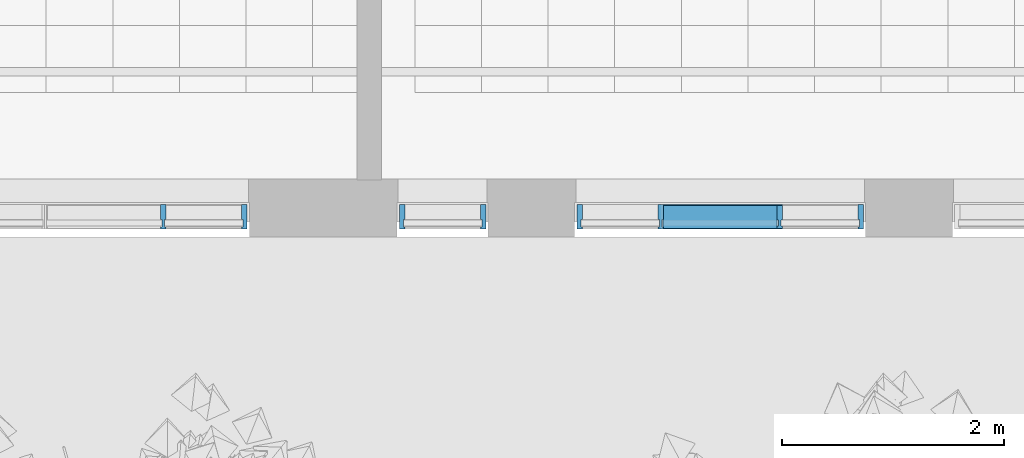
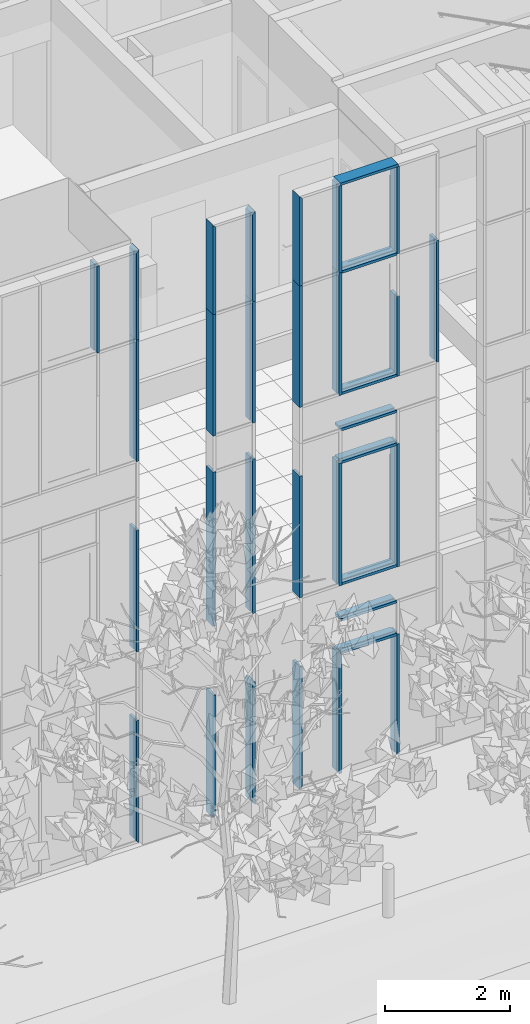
# One storey, part 23 of 246: 34 members, 3 elements without a shape of their own.
"""IFC2X3 building model written with IfcOpenShell, lengths in millimetres."""

from ifc_helpers import new_model, entity, si_unit, converted_unit, derived_unit, money_unit, direction, frame, origin_with_axes, place, context, subcontext, project, spatial, faceted_brep, source, transform, mapped, material, type_object, element, aggregate, save


model = new_model("IFC2X3")

# Units and contexts
model_context = context("Model", 3, precision=0.01, world=origin_with_axes(), true_north=direction((0.0, 1.0)))
body_context = subcontext(model_context, "Body", "Model", "MODEL_VIEW")
ifc_project = project(units=[si_unit("LENGTHUNIT", "METRE", prefix="MILLI"), si_unit("AREAUNIT", "SQUARE_METRE"), si_unit("VOLUMEUNIT", "CUBIC_METRE"), converted_unit("PLANEANGLEUNIT", "DEGREE", entity("IfcPlaneAngleMeasure", 0.0174532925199), si_unit("PLANEANGLEUNIT", "RADIAN"), dimensions=[0, 0, 0, 0, 0, 0, 0]), si_unit("SOLIDANGLEUNIT", "STERADIAN"), money_unit("EUR"), converted_unit("TIMEUNIT", "Year", entity("IfcTimeMeasure", 31556926.0), si_unit("TIMEUNIT", "SECOND"), dimensions=[0, 0, 1, 0, 0, 0, 0]), si_unit("MASSUNIT", "GRAM", prefix="KILO"), si_unit("THERMODYNAMICTEMPERATUREUNIT", "DEGREE_CELSIUS"), si_unit("LUMINOUSINTENSITYUNIT", "LUMEN"), si_unit("ENERGYUNIT", "JOULE", prefix="MEGA"), derived_unit("THERMALCONDUCTANCEUNIT", [(si_unit("POWERUNIT", "WATT"), 1), (si_unit("LENGTHUNIT", "METRE"), -1), (si_unit("THERMODYNAMICTEMPERATUREUNIT", "KELVIN"), -1)]), derived_unit("SPECIFICHEATCAPACITYUNIT", [(si_unit("ENERGYUNIT", "JOULE"), 1), (si_unit("MASSUNIT", "GRAM", prefix="KILO"), -1), (si_unit("THERMODYNAMICTEMPERATUREUNIT", "KELVIN"), -1)]), derived_unit("MASSDENSITYUNIT", [(si_unit("MASSUNIT", "GRAM", prefix="KILO"), 1), (si_unit("VOLUMEUNIT", "CUBIC_METRE"), -1)])], contexts=[model_context])

# Site, building, storey
site_placement = place(None, origin_with_axes())
site = spatial("IfcSite", under=ifc_project, at=site_placement, Name="L.Koidula tn 11b", CompositionType="ELEMENT")
building_placement = place(site_placement, origin_with_axes())
building = spatial("IfcBuilding", under=site, at=building_placement, Name="Rakvere Riigigümnaasium", CompositionType="ELEMENT")
storey_placement = place(building_placement, origin_with_axes())
storey = spatial("IfcBuildingStorey", under=building, at=storey_placement, Name="1.korrus 0,00", CompositionType="ELEMENT", Elevation=0.0)

# Curtain wall, member
curtain_wall_type = type_object("IfcCurtainWallType", Name="Curtain Wall Type", PredefinedType="NOTDEFINED")
curtain_wall_1_placement = place(storey_placement, frame((67100.0002798, 5111.45334637, -1.61944652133e-05), z_axis=(0.0, 0.0, 1.0), x_axis=(1.0, 0.0, 0.0)))
curtain_wall_1 = element("IfcCurtainWall", 1, at=curtain_wall_1_placement, inside=storey, type_object=curtain_wall_type, Name="KLF-05-4A")
ifc_material = material(Name="Alumiiniumprofiil (RAL 7021)")
member_type_1 = type_object("IfcMemberType", Name="Boundary Frame 50 x 222", PredefinedType="MULLION")
shared_shape_1 = source(origin_with_axes(), body_context, "Body", "Brep", [
    faceted_brep([(37.0, -32.5, 2375.00000025), (37.0, 32.5, 2375.00000025), (50.0, 32.5, 2375.00000025), (50.0, 53.0, 2375.00000025), (0.0, 53.0, 2375.00000025), (0.0, -169.0, 2375.00000025), (50.0, -169.0, 2375.00000025), (50.0, -32.5, 2375.00000025), (37.0, -32.5, -2.4712543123e-07), (37.0, 32.5, -2.4712543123e-07), (50.0, 32.5, -2.47125653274e-07), (50.0, 53.0, -2.47125653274e-07), (0.0, 53.0, -2.47125653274e-07), (0.0, -169.0, -2.47125653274e-07), (50.0, -169.0, -2.47125653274e-07), (50.0, -32.5, -2.47125653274e-07)], [[[0, 1, 2, 3, 4, 5, 6, 7]], [[1, 0, 8, 9]], [[10, 2, 1, 9]], [[2, 10, 11, 3]], [[12, 4, 3, 11]], [[13, 5, 4, 12]], [[14, 6, 5, 13]], [[15, 7, 6, 14]], [[0, 7, 15, 8]], [[8, 15, 14, 13, 12, 11, 10, 9]]]),
])
member_1_placement = place(curtain_wall_1_placement, frame((390.000208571, 0.0, 7465.0), z_axis=(-9.66679181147e-09, 0.0, 1.0), x_axis=(-1.0, 0.0, -9.66679181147e-09)))
member_1 = element("IfcMember", 2, at=member_1_placement, type_object=member_type_1, material=ifc_material, Name="KLF-05-3A-Profiilid", ObjectType="MULLION", context=body_context, shape_type="MappedRepresentation", body=[
    mapped(shared_shape_1, transform((0.0, 0.0, 0.0))),
])

# Curtain wall, members
curtain_wall_2_placement = place(storey_placement, frame((69496.9084811, 5111.45334637, -8.09717186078e-06), z_axis=(0.0, 0.0, 1.0), x_axis=(1.0, 0.0, 0.0)))
curtain_wall_2 = element("IfcCurtainWall", 3, at=curtain_wall_2_placement, inside=storey, type_object=curtain_wall_type, Name="KLF-05-3B")
member_2_placement = place(curtain_wall_2_placement, frame((-1186.90871197, 0.0, 6120.0), z_axis=(0.0, 0.0, -1.0), x_axis=(1.0, 0.0, 0.0)))
member_2 = element("IfcMember", 4, at=member_2_placement, type_object=member_type_1, material=ifc_material, Name="KLF-05-8A-Profiilid", ObjectType="MULLION", context=body_context, shape_type="MappedRepresentation", body=[
    mapped(shared_shape_1, transform((0.0, 0.0, 0.0))),
])
member_3_placement = place(curtain_wall_2_placement, frame((-1186.90888468, 0.0, 9840.0), z_axis=(0.0, 0.0, -1.0), x_axis=(1.0, 0.0, 0.0)))
member_3 = element("IfcMember", 5, at=member_3_placement, type_object=member_type_1, material=ifc_material, Name="KLF-05-5A-Profiilid", ObjectType="MULLION", context=body_context, shape_type="MappedRepresentation", body=[
    mapped(shared_shape_1, transform((0.0, 0.0, 0.0))),
])
member_4_placement = place(curtain_wall_2_placement, frame((1393.0913307, 0.0, 7465.0), z_axis=(-7.74479016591e-09, 0.0, 1.0), x_axis=(-1.0, 0.0, -7.74479016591e-09)))
member_4 = element("IfcMember", 6, at=member_4_placement, type_object=member_type_1, material=ifc_material, Name="KLF-05-9A-Profiilid", ObjectType="MULLION", context=body_context, shape_type="MappedRepresentation", body=[
    mapped(shared_shape_1, transform((0.0, 0.0, 0.0))),
])

curtain_wall_3_placement = place(storey_placement, frame((63946.9084811, 5111.45334637, -8.0971711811e-06), z_axis=(0.0, 0.0, 1.0), x_axis=(1.0, 0.0, 0.0)))
curtain_wall_3 = element("IfcCurtainWall", 7, at=curtain_wall_3_placement, inside=storey, type_object=curtain_wall_type, Name="KLF-05-3B")
member_5_placement = place(curtain_wall_3_placement, frame((1393.0913307, 0.0, 7465.0), z_axis=(-7.74479016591e-09, 0.0, 1.0), x_axis=(-1.0, 0.0, -7.74479016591e-09)))
member_5 = element("IfcMember", 8, at=member_5_placement, type_object=member_type_1, material=ifc_material, Name="KLF-05-9A-Profiilid", ObjectType="MULLION", context=body_context, shape_type="MappedRepresentation", body=[
    mapped(shared_shape_1, transform((0.0, 0.0, 0.0))),
])
member_6_placement = place(curtain_wall_3_placement, frame((1393.0913307, 0.0, 3745.0), z_axis=(-2.40928437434e-08, 0.0, 1.0), x_axis=(-1.0, 0.0, -2.40928437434e-08)))
member_6 = element("IfcMember", 9, at=member_6_placement, type_object=member_type_1, material=ifc_material, Name="KLF-05-6A-Profiilid", ObjectType="MULLION", context=body_context, shape_type="MappedRepresentation", body=[
    mapped(shared_shape_1, transform((0.0, 0.0, 0.0))),
])

# Member
shared_shape_2 = source(origin_with_axes(), body_context, "Body", "Brep", [
    faceted_brep([(-37.0, -32.5, 2375.0), (-50.0, -32.5, 2375.0), (-50.0, -169.0, 2375.0), (0.0, -169.0, 2375.0), (0.0, 53.0, 2375.0), (-50.0, 53.0, 2375.0), (-50.0, 32.5, 2375.0), (-37.0, 32.5, 2375.0), (-37.0, -32.5, 0.0), (-50.0, -32.5, 0.0), (-50.0, -169.0, 0.0), (0.0, -169.0, 0.0), (0.0, 53.0, 0.0), (-50.0, 53.0, 0.0), (-50.0, 32.5, 0.0), (-37.0, 32.5, 0.0)], [[[0, 1, 2, 3, 4, 5, 6, 7]], [[0, 8, 9, 1]], [[9, 10, 2, 1]], [[10, 11, 3, 2]], [[11, 12, 4, 3]], [[12, 13, 5, 4]], [[6, 5, 13, 14]], [[14, 15, 7, 6]], [[7, 15, 8, 0]], [[8, 15, 14, 13, 12, 11, 10, 9]]]),
])
member_7_placement = place(curtain_wall_1_placement, frame((-390.000197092, 0.0, 7465.0), z_axis=(0.0, 0.0, 1.0), x_axis=(-1.0, 0.0, 0.0)))
member_7 = element("IfcMember", 10, at=member_7_placement, type_object=member_type_1, material=ifc_material, Name="KLF-05-7A-Profiilid", ObjectType="MULLION", context=body_context, shape_type="MappedRepresentation", body=[
    mapped(shared_shape_2, transform((0.0, 0.0, 0.0))),
])

shared_shape_3 = source(origin_with_axes(), body_context, "Body", "Brep", [
    faceted_brep([(37.0, -32.5, 1712.99983191), (37.0, 32.5, 1712.99983191), (50.0, 32.5, 1699.99983191), (50.0, 53.0, 1699.99983191), (0.0, 53.0, 1749.99983191), (0.0, -169.0, 1749.99983191), (50.0, -169.0, 1699.99983191), (50.0, -32.5, 1699.99983191), (37.0, -32.5, -2.47125875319e-07), (37.0, 32.5, -2.47125875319e-07), (50.0, 32.5, -2.47125764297e-07), (50.0, 53.0, -2.47125764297e-07), (0.0, 53.0, -2.47125764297e-07), (0.0, -169.0, -2.47125764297e-07), (50.0, -169.0, -2.47125764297e-07), (50.0, -32.5, -2.47125764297e-07)], [[[0, 1, 2, 3, 4, 5, 6, 7]], [[1, 0, 8, 9]], [[10, 2, 1, 9]], [[2, 10, 11, 3]], [[12, 4, 3, 11]], [[13, 5, 4, 12]], [[14, 6, 5, 13]], [[15, 7, 6, 14]], [[0, 7, 15, 8]], [[8, 15, 14, 13, 12, 11, 10, 9]]]),
])
member_8_placement = place(curtain_wall_1_placement, frame((390.000185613, 0.0, 9840.0), z_axis=(-3.8268921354e-08, 0.0, 1.0), x_axis=(-1.0, 0.0, -3.8268921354e-08)))
member_8 = element("IfcMember", 11, at=member_8_placement, type_object=member_type_1, material=ifc_material, Name="KLF-05-4A-Profiilid", ObjectType="MULLION", context=body_context, shape_type="MappedRepresentation", body=[
    mapped(shared_shape_3, transform((0.0, 0.0, 0.0))),
])

member_9_placement = place(curtain_wall_3_placement, frame((1393.0913123, 0.0, 9840.0), z_axis=(-1.86264510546e-09, 0.0, 1.0), x_axis=(-1.0, 0.0, -1.86264510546e-09)))
member_9 = element("IfcMember", 12, at=member_9_placement, type_object=member_type_1, material=ifc_material, Name="KLF-05-0A-Profiilid", ObjectType="MULLION", context=body_context, shape_type="MappedRepresentation", body=[
    mapped(shared_shape_3, transform((0.0, 0.0, 0.0))),
])

member_type_2 = type_object("IfcMemberType", Name="Mullion Frame 50 x 222", PredefinedType="MULLION")
shared_shape_4 = source(origin_with_axes(), body_context, "Body", "Brep", [
    faceted_brep([(-12.0, -32.5, 2375.0), (-25.0, -32.5, 2375.0), (-25.0, -169.0, 2375.0), (25.0, -169.0, 2375.0), (25.0, -32.5, 2375.0), (12.0, -32.5, 2375.0), (12.0, 32.5, 2375.0), (25.0, 32.5, 2375.0), (25.0, 53.0, 2375.0), (-25.0, 53.0, 2375.0), (-25.0, 32.5, 2375.0), (-12.0, 32.5, 2375.0), (-12.0, -32.5, -25.0), (-25.0, -32.5, -25.0), (-25.0, -169.0, -25.0), (25.0, -169.0, -25.0), (25.0, -32.5, -25.0), (12.0, -32.5, -25.0), (12.0, 32.5, -25.0), (25.0, 32.5, -25.0), (25.0, 53.0, -25.0), (-25.0, 53.0, -25.0), (-25.0, 32.5, -25.0), (-12.0, 32.5, -25.0)], [[[0, 1, 2, 3, 4, 5, 6, 7, 8, 9, 10, 11]], [[1, 0, 12, 13]], [[1, 13, 14, 2]], [[3, 2, 14, 15]], [[4, 3, 15, 16]], [[4, 16, 17, 5]], [[5, 17, 18, 6]], [[7, 6, 18, 19]], [[19, 20, 8, 7]], [[9, 8, 20, 21]], [[22, 10, 9, 21]], [[11, 10, 22, 23]], [[0, 11, 23, 12]], [[23, 22, 21, 20, 19, 18, 17, 16, 15, 14, 13, 12]]]),
])
member_10_placement = place(curtain_wall_2_placement, frame((-431.908628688, 0.0, 3745.0), z_axis=(0.0, 0.0, 1.0), x_axis=(-1.0, 0.0, 0.0)))
member_10 = element("IfcMember", 13, at=member_10_placement, type_object=member_type_2, material=ifc_material, Name="KLF-05-9A-Profiilid", ObjectType="MULLION", context=body_context, shape_type="MappedRepresentation", body=[
    mapped(shared_shape_4, transform((0.0, 0.0, 0.0))),
])

member_11_placement = place(curtain_wall_2_placement, frame((-431.908628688, 0.0, 7465.0), z_axis=(0.0, 0.0, 1.0), x_axis=(-1.0, 0.0, 0.0)))
member_11 = element("IfcMember", 14, at=member_11_placement, type_object=member_type_2, material=ifc_material, Name="KLF-05-6A-Profiilid", ObjectType="MULLION", context=body_context, shape_type="MappedRepresentation", body=[
    mapped(shared_shape_4, transform((0.0, 0.0, 0.0))),
])

shared_shape_5 = source(origin_with_axes(), body_context, "Body", "Brep", [
    faceted_brep([(37.0, -32.5, 2400.0), (37.0, 32.5, 2400.0), (50.0, 32.5, 2400.0), (50.0, 53.0, 2400.0), (0.0, 53.0, 2400.0), (0.0, -169.0, 2400.0), (50.0, -169.0, 2400.0), (50.0, -32.5, 2400.0), (37.0, -32.5, 37.0), (37.0, 32.5, 37.0), (50.0, 32.5, 50.0), (50.0, 53.0, 50.0), (0.0, 53.0, 0.0), (0.0, -169.0, 0.0), (50.0, -169.0, 50.0), (50.0, -32.5, 50.0)], [[[0, 1, 2, 3, 4, 5, 6, 7]], [[1, 0, 8, 9]], [[10, 2, 1, 9]], [[2, 10, 11, 3]], [[4, 3, 11, 12]], [[5, 4, 12, 13]], [[6, 5, 13, 14]], [[15, 7, 6, 14]], [[0, 7, 15, 8]], [[8, 15, 14, 13, 12, 11, 10, 9]]]),
])
member_12_placement = place(curtain_wall_1_placement, frame((390.000208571, 0.0, 0.0), z_axis=(0.0, 0.0, 1.0), x_axis=(-1.0, 0.0, 0.0)))
member_12 = element("IfcMember", 15, at=member_12_placement, type_object=member_type_1, material=ifc_material, Name="KLF-05-8A-Profiilid", ObjectType="MULLION", context=body_context, shape_type="MappedRepresentation", body=[
    mapped(shared_shape_5, transform((0.0, 0.0, 0.0))),
])

member_13_placement = place(curtain_wall_3_placement, frame((1393.0913307, 0.0, 0.0), z_axis=(-2.38418766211e-08, 0.0, 1.0), x_axis=(-1.0, 0.0, -2.38418766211e-08)))
member_13 = element("IfcMember", 16, at=member_13_placement, type_object=member_type_1, material=ifc_material, Name="KLF-05-3A-Profiilid", ObjectType="MULLION", context=body_context, shape_type="MappedRepresentation", body=[
    mapped(shared_shape_5, transform((0.0, 0.0, 0.0))),
])

member_type_3 = type_object("IfcMemberType", Name="50 x 208", PredefinedType="MULLION")
shared_shape_6 = source(origin_with_axes(), body_context, "Body", "Brep", [
    faceted_brep([(-12.0, -27.0, 1025.45673266), (-25.0, -27.0, 1025.45673266), (-25.0, -160.0, 1025.45673266), (25.0, -160.0, 1025.45673266), (25.0, -27.0, 1025.45673266), (12.0, -27.0, 1025.45673266), (12.0, 27.0, 1025.45673266), (25.0, 27.0, 1025.45673266), (25.0, 48.0, 1025.45673266), (-25.0, 48.0, 1025.45673266), (-25.0, 27.0, 1025.45673266), (-12.0, 27.0, 1025.45673266), (-12.0, -27.0, 0.0), (-25.0, -27.0, 0.0), (-25.0, -160.0, 0.0), (25.0, -160.0, 0.0), (25.0, -27.0, 0.0), (12.0, -27.0, 0.0), (12.0, 27.0, 0.0), (25.0, 27.0, 0.0), (25.0, 48.0, 0.0), (-25.0, 48.0, 0.0), (-25.0, 27.0, 0.0), (-12.0, 27.0, 0.0)], [[[0, 1, 2, 3, 4, 5, 6, 7, 8, 9, 10, 11]], [[1, 0, 12, 13]], [[1, 13, 14, 2]], [[3, 2, 14, 15]], [[4, 3, 15, 16]], [[4, 16, 17, 5]], [[5, 17, 18, 6]], [[7, 6, 18, 19]], [[19, 20, 8, 7]], [[9, 8, 20, 21]], [[22, 10, 9, 21]], [[11, 10, 22, 23]], [[0, 11, 23, 12]], [[23, 22, 21, 20, 19, 18, 17, 16, 15, 14, 13, 12]]]),
])
member_14_placement = place(curtain_wall_2_placement, frame((-412.365361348, 0.0, 2400.0), z_axis=(1.0, 0.0, 0.0), x_axis=(0.0, 0.0, 1.0)))
member_14 = element("IfcMember", 17, at=member_14_placement, type_object=member_type_3, material=ifc_material, Name="KLF-40", ObjectType="MULLION", context=body_context, shape_type="MappedRepresentation", body=[
    mapped(shared_shape_6, transform((0.0, 0.0, 0.0))),
])

member_15_placement = place(curtain_wall_2_placement, frame((-412.365361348, 0.0, 3040.0), z_axis=(1.0, 0.0, 0.0), x_axis=(0.0, 0.0, 1.0)))
member_15 = element("IfcMember", 18, at=member_15_placement, type_object=member_type_3, material=ifc_material, Name="KLF-82", ObjectType="MULLION", context=body_context, shape_type="MappedRepresentation", body=[
    mapped(shared_shape_6, transform((0.0, 0.0, 0.0))),
])

member_16_placement = place(curtain_wall_2_placement, frame((-412.365361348, 0.0, 3745.0), z_axis=(1.0, 0.0, 0.0), x_axis=(0.0, 0.0, 1.0)))
member_16 = element("IfcMember", 19, at=member_16_placement, type_object=member_type_3, material=ifc_material, Name="KLF-84", ObjectType="MULLION", context=body_context, shape_type="MappedRepresentation", body=[
    mapped(shared_shape_6, transform((0.0, 0.0, 0.0))),
])

member_17_placement = place(curtain_wall_2_placement, frame((-412.365361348, 0.0, 6120.0), z_axis=(1.0, 0.0, 0.0), x_axis=(0.0, 0.0, 1.0)))
member_17 = element("IfcMember", 20, at=member_17_placement, type_object=member_type_3, material=ifc_material, Name="KLF-15", ObjectType="MULLION", context=body_context, shape_type="MappedRepresentation", body=[
    mapped(shared_shape_6, transform((0.0, 0.0, 0.0))),
])

member_18_placement = place(curtain_wall_2_placement, frame((-412.365361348, 0.0, 6760.0), z_axis=(1.0, 0.0, 0.0), x_axis=(0.0, 0.0, 1.0)))
member_18 = element("IfcMember", 21, at=member_18_placement, type_object=member_type_3, material=ifc_material, Name="KLF-17", ObjectType="MULLION", context=body_context, shape_type="MappedRepresentation", body=[
    mapped(shared_shape_6, transform((0.0, 0.0, 0.0))),
])

member_19_placement = place(curtain_wall_2_placement, frame((-412.365361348, 0.0, 7465.0), z_axis=(1.0, 0.0, 0.0), x_axis=(0.0, 0.0, 1.0)))
member_19 = element("IfcMember", 22, at=member_19_placement, type_object=member_type_3, material=ifc_material, Name="KLF-50", ObjectType="MULLION", context=body_context, shape_type="MappedRepresentation", body=[
    mapped(shared_shape_6, transform((0.0, 0.0, 0.0))),
])

shared_shape_7 = source(origin_with_axes(), body_context, "Body", "Brep", [
    faceted_brep([(-12.0, -32.5, 1699.99983191), (-25.0, -32.5, 1699.99983191), (-25.0, -169.0, 1699.99983191), (25.0, -169.0, 1699.99983191), (25.0, -32.5, 1699.99983191), (12.0, -32.5, 1699.99983191), (12.0, 32.5, 1699.99983191), (25.0, 32.5, 1699.99983191), (25.0, 53.0, 1699.99983191), (-25.0, 53.0, 1699.99983191), (-25.0, 32.5, 1699.99983191), (-12.0, 32.5, 1699.99983191), (-12.0, -32.5, 0.0), (-25.0, -32.5, 0.0), (-25.0, -169.0, 0.0), (25.0, -169.0, 0.0), (25.0, -32.5, 0.0), (12.0, -32.5, 0.0), (12.0, 32.5, 0.0), (25.0, 32.5, 0.0), (25.0, 53.0, 0.0), (-25.0, 53.0, 0.0), (-25.0, 32.5, 0.0), (-12.0, 32.5, 0.0)], [[[0, 1, 2, 3, 4, 5, 6, 7, 8, 9, 10, 11]], [[1, 0, 12, 13]], [[1, 13, 14, 2]], [[3, 2, 14, 15]], [[4, 3, 15, 16]], [[4, 16, 17, 5]], [[5, 17, 18, 6]], [[7, 6, 18, 19]], [[19, 20, 8, 7]], [[9, 8, 20, 21]], [[22, 10, 9, 21]], [[11, 10, 22, 23]], [[0, 11, 23, 12]], [[23, 22, 21, 20, 19, 18, 17, 16, 15, 14, 13, 12]]]),
])
member_20_placement = place(curtain_wall_2_placement, frame((-431.908628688, 0.0, 9840.0), z_axis=(0.0, 0.0, 1.0), x_axis=(-1.0, 0.0, 0.0)))
member_20 = element("IfcMember", 23, at=member_20_placement, type_object=member_type_2, material=ifc_material, Name="KLF-05-5A-Profiilid", ObjectType="MULLION", context=body_context, shape_type="MappedRepresentation", body=[
    mapped(shared_shape_7, transform((0.0, 0.0, 0.0))),
])

member_21_placement = place(curtain_wall_2_placement, frame((638.091371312, 0.0, 9840.0), z_axis=(0.0, 0.0, 1.0), x_axis=(-1.0, 0.0, 0.0)))
member_21 = element("IfcMember", 24, at=member_21_placement, type_object=member_type_2, material=ifc_material, Name="KLF-05-6A-Profiilid", ObjectType="MULLION", context=body_context, shape_type="MappedRepresentation", body=[
    mapped(shared_shape_7, transform((0.0, 0.0, 0.0))),
])

member_22_placement = place(curtain_wall_3_placement, frame((638.091371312, 0.0, 9840.0), z_axis=(0.0, 0.0, 1.0), x_axis=(-1.0, 0.0, 0.0)))
member_22 = element("IfcMember", 25, at=member_22_placement, type_object=member_type_2, material=ifc_material, Name="KLF-05-6A-Profiilid", ObjectType="MULLION", context=body_context, shape_type="MappedRepresentation", body=[
    mapped(shared_shape_7, transform((0.0, 0.0, 0.0))),
])

aggregate(curtain_wall_3, [member_5, member_6, member_13, member_22, member_9])

shared_shape_8 = source(origin_with_axes(), body_context, "Body", "Brep", [
    faceted_brep([(-37.0, -32.5, 2400.0), (-50.0, -32.5, 2400.0), (-50.0, -169.0, 2400.0), (0.0, -169.0, 2400.0), (0.0, 53.0, 2400.0), (-50.0, 53.0, 2400.0), (-50.0, 32.5, 2400.0), (-37.0, 32.5, 2400.0), (-37.0, -32.5, 37.0), (-50.0, -32.5, 50.0), (-50.0, -169.0, 50.0), (0.0, -169.0, 0.0), (0.0, 53.0, 0.0), (-50.0, 53.0, 50.0), (-50.0, 32.5, 50.0), (-37.0, 32.5, 37.0)], [[[0, 1, 2, 3, 4, 5, 6, 7]], [[0, 8, 9, 1]], [[9, 10, 2, 1]], [[2, 10, 11, 3]], [[3, 11, 12, 4]], [[4, 12, 13, 5]], [[6, 5, 13, 14]], [[14, 15, 7, 6]], [[7, 15, 8, 0]], [[8, 15, 14, 13, 12, 11, 10, 9]]]),
])
member_23_placement = place(curtain_wall_1_placement, frame((-390.000197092, 0.0, 0.0), z_axis=(0.0, 0.0, 1.0), x_axis=(-1.0, 0.0, 0.0)))
member_23 = element("IfcMember", 26, at=member_23_placement, type_object=member_type_1, material=ifc_material, Name="KLF-05-2A-Profiilid", ObjectType="MULLION", context=body_context, shape_type="MappedRepresentation", body=[
    mapped(shared_shape_8, transform((0.0, 0.0, 0.0))),
])

shared_shape_9 = source(origin_with_axes(), body_context, "Body", "Brep", [
    faceted_brep([(-37.0, -32.5, 1712.99983191), (-50.0, -32.5, 1699.99983191), (-50.0, -169.0, 1699.99983191), (0.0, -169.0, 1749.99983191), (0.0, 53.0, 1749.99983191), (-50.0, 53.0, 1699.99983191), (-50.0, 32.5, 1699.99983191), (-37.0, 32.5, 1712.99983191), (-37.0, -32.5, 0.0), (-50.0, -32.5, 0.0), (-50.0, -169.0, 0.0), (0.0, -169.0, 0.0), (0.0, 53.0, 0.0), (-50.0, 53.0, 0.0), (-50.0, 32.5, 0.0), (-37.0, 32.5, 0.0)], [[[0, 1, 2, 3, 4, 5, 6, 7]], [[0, 8, 9, 1]], [[9, 10, 2, 1]], [[10, 11, 3, 2]], [[11, 12, 4, 3]], [[12, 13, 5, 4]], [[6, 5, 13, 14]], [[14, 15, 7, 6]], [[7, 15, 8, 0]], [[8, 15, 14, 13, 12, 11, 10, 9]]]),
])
member_24_placement = place(curtain_wall_1_placement, frame((-390.000197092, 0.0, 9840.0), z_axis=(0.0, 0.0, 1.0), x_axis=(-1.0, 0.0, 0.0)))
member_24 = element("IfcMember", 27, at=member_24_placement, type_object=member_type_1, material=ifc_material, Name="KLF-05-6A-Profiilid", ObjectType="MULLION", context=body_context, shape_type="MappedRepresentation", body=[
    mapped(shared_shape_9, transform((0.0, 0.0, 0.0))),
])

shared_shape_10 = source(origin_with_axes(), body_context, "Body", "Brep", [
    faceted_brep([(37.0, -32.5, 3015.0), (37.0, 32.5, 3015.0), (50.0, 32.5, 3015.0), (50.0, 53.0, 3015.0), (0.0, 53.0, 3015.0), (0.0, -169.0, 3015.0), (50.0, -169.0, 3015.0), (50.0, -32.5, 3015.0), (37.0, -32.5, 0.0), (37.0, 32.5, 0.0), (50.0, 32.5, 0.0), (50.0, 53.0, 0.0), (0.0, 53.0, 0.0), (0.0, -169.0, 0.0), (50.0, -169.0, 0.0), (50.0, -32.5, 0.0)], [[[0, 1, 2, 3, 4, 5, 6, 7]], [[1, 0, 8, 9]], [[10, 2, 1, 9]], [[2, 10, 11, 3]], [[12, 4, 3, 11]], [[13, 5, 4, 12]], [[14, 6, 5, 13]], [[15, 7, 6, 14]], [[0, 7, 15, 8]], [[8, 15, 14, 13, 12, 11, 10, 9]]]),
])
member_25_placement = place(curtain_wall_1_placement, frame((390.000208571, 0.0, 3745.0), z_axis=(0.0, 0.0, 1.0), x_axis=(-1.0, 0.0, 0.0)))
member_25 = element("IfcMember", 28, at=member_25_placement, type_object=member_type_1, material=ifc_material, Name="KLF-05-1A-Profiilid", ObjectType="MULLION", context=body_context, shape_type="MappedRepresentation", body=[
    mapped(shared_shape_10, transform((0.0, 0.0, 0.0))),
])

shared_shape_11 = source(origin_with_axes(), body_context, "Body", "Brep", [
    faceted_brep([(-12.0, -27.0, 2400.00026018), (-25.0, -27.0, 2400.00026018), (-25.0, -160.0, 2400.00026018), (25.0, -160.0, 2400.00026018), (25.0, -27.0, 2400.00026018), (12.0, -27.0, 2400.00026018), (12.0, 27.0, 2400.00026018), (25.0, 27.0, 2400.00026018), (25.0, 48.0, 2400.00026018), (-25.0, 48.0, 2400.00026018), (-25.0, 27.0, 2400.00026018), (-12.0, 27.0, 2400.00026018), (-12.0, -27.0, 50.0), (-25.0, -27.0, 50.0), (-25.0, -160.0, 50.0), (25.0, -160.0, 50.0), (25.0, -27.0, 50.0), (12.0, -27.0, 50.0), (12.0, 27.0, 50.0), (25.0, 27.0, 50.0), (25.0, 48.0, 50.0), (-25.0, 48.0, 50.0), (-25.0, 27.0, 50.0), (-12.0, 27.0, 50.0)], [[[0, 1, 2, 3, 4, 5, 6, 7, 8, 9, 10, 11]], [[1, 0, 12, 13]], [[1, 13, 14, 2]], [[2, 14, 15, 3]], [[4, 3, 15, 16]], [[4, 16, 17, 5]], [[5, 17, 18, 6]], [[7, 6, 18, 19]], [[19, 20, 8, 7]], [[8, 20, 21, 9]], [[22, 10, 9, 21]], [[11, 10, 22, 23]], [[0, 11, 23, 12]], [[23, 22, 21, 20, 19, 18, 17, 16, 15, 14, 13, 12]]]),
])
member_26_placement = place(curtain_wall_2_placement, frame((638.091371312, 0.0, 0.0), z_axis=(0.0, 0.0, 1.0), x_axis=(-1.0, 0.0, 0.0)))
member_26 = element("IfcMember", 29, at=member_26_placement, type_object=member_type_3, material=ifc_material, Name="KLF-24", ObjectType="MULLION", context=body_context, shape_type="MappedRepresentation", body=[
    mapped(shared_shape_11, transform((0.0, 0.0, 0.0))),
])

shared_shape_12 = source(origin_with_axes(), body_context, "Body", "Brep", [
    faceted_brep([(-12.0, -32.5, 2400.0), (-25.0, -32.5, 2400.0), (-25.0, -169.0, 2400.0), (25.0, -169.0, 2400.0), (25.0, -32.5, 2400.0), (12.0, -32.5, 2400.0), (12.0, 32.5, 2400.0), (25.0, 32.5, 2400.0), (25.0, 53.0, 2400.0), (-25.0, 53.0, 2400.0), (-25.0, 32.5, 2400.0), (-12.0, 32.5, 2400.0), (-12.0, -32.5, 50.0), (-25.0, -32.5, 50.0), (-25.0, -169.0, 50.0), (25.0, -169.0, 50.0), (25.0, -32.5, 50.0), (12.0, -32.5, 50.0), (12.0, 32.5, 50.0), (25.0, 32.5, 50.0), (25.0, 53.0, 50.0), (-25.0, 53.0, 50.0), (-25.0, 32.5, 50.0), (-12.0, 32.5, 50.0)], [[[0, 1, 2, 3, 4, 5, 6, 7, 8, 9, 10, 11]], [[1, 0, 12, 13]], [[1, 13, 14, 2]], [[2, 14, 15, 3]], [[4, 3, 15, 16]], [[4, 16, 17, 5]], [[5, 17, 18, 6]], [[7, 6, 18, 19]], [[19, 20, 8, 7]], [[8, 20, 21, 9]], [[22, 10, 9, 21]], [[11, 10, 22, 23]], [[0, 11, 23, 12]], [[23, 22, 21, 20, 19, 18, 17, 16, 15, 14, 13, 12]]]),
])
member_27_placement = place(curtain_wall_2_placement, frame((-431.908628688, 0.0, 0.0), z_axis=(0.0, 0.0, 1.0), x_axis=(-1.0, 0.0, 0.0)))
member_27 = element("IfcMember", 30, at=member_27_placement, type_object=member_type_2, material=ifc_material, Name="KLF-05-2A-Profiilid", ObjectType="MULLION", context=body_context, shape_type="MappedRepresentation", body=[
    mapped(shared_shape_12, transform((0.0, 0.0, 0.0))),
])

shared_shape_13 = source(origin_with_axes(), body_context, "Body", "Brep", [
    faceted_brep([(-12.0, -27.0, 1535.0), (-25.0, -27.0, 1535.0), (-25.0, -160.0, 1535.0), (25.0, -160.0, 1535.0), (25.0, -27.0, 1535.0), (12.0, -27.0, 1535.0), (12.0, 27.0, 1535.0), (25.0, 27.0, 1535.0), (25.0, 48.0, 1535.0), (-25.0, 48.0, 1535.0), (-25.0, 27.0, 1535.0), (-12.0, 27.0, 1535.0), (-12.0, -27.0, -25.0), (-25.0, -27.0, -25.0), (-25.0, -160.0, -25.0), (25.0, -160.0, -25.0), (25.0, -27.0, -25.0), (12.0, -27.0, -25.0), (12.0, 27.0, -25.0), (25.0, 27.0, -25.0), (25.0, 48.0, -25.0), (-25.0, 48.0, -25.0), (-25.0, 27.0, -25.0), (-12.0, 27.0, -25.0)], [[[0, 1, 2, 3, 4, 5, 6, 7, 8, 9, 10, 11]], [[1, 0, 12, 13]], [[1, 13, 14, 2]], [[3, 2, 14, 15]], [[4, 3, 15, 16]], [[4, 16, 17, 5]], [[5, 17, 18, 6]], [[7, 6, 18, 19]], [[19, 20, 8, 7]], [[9, 8, 20, 21]], [[22, 10, 9, 21]], [[11, 10, 22, 23]], [[0, 11, 23, 12]], [[23, 22, 21, 20, 19, 18, 17, 16, 15, 14, 13, 12]]]),
])
member_28_placement = place(curtain_wall_2_placement, frame((638.091371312, 0.0, 7465.0), z_axis=(0.0, 0.0, 1.0), x_axis=(-1.0, 0.0, 0.0)))
member_28 = element("IfcMember", 31, at=member_28_placement, type_object=member_type_3, material=ifc_material, Name="KLF-25", ObjectType="MULLION", context=body_context, shape_type="MappedRepresentation", body=[
    mapped(shared_shape_13, transform((0.0, 0.0, 0.0))),
])

member_type_4 = type_object("IfcMemberType", Name="50 x 222", PredefinedType="MULLION")
shared_shape_14 = source(origin_with_axes(), body_context, "Body", "Brep", [
    faceted_brep([(-12.0, -27.0, 2375.0), (-25.0, -27.0, 2375.0), (-25.0, -169.0, 2375.0), (25.0, -169.0, 2375.0), (25.0, -27.0, 2375.0), (12.0, -27.0, 2375.0), (12.0, 27.0, 2375.0), (25.0, 27.0, 2375.0), (25.0, 53.0, 2375.0), (-25.0, 53.0, 2375.0), (-25.0, 27.0, 2375.0), (-12.0, 27.0, 2375.0), (-12.0, -27.0, -25.0), (-25.0, -27.0, -25.0), (-25.0, -169.0, -25.0), (25.0, -169.0, -25.0), (25.0, -27.0, -25.0), (12.0, -27.0, -25.0), (12.0, 27.0, -25.0), (25.0, 27.0, -25.0), (25.0, 53.0, -25.0), (-25.0, 53.0, -25.0), (-25.0, 27.0, -25.0), (-12.0, 27.0, -25.0)], [[[0, 1, 2, 3, 4, 5, 6, 7, 8, 9, 10, 11]], [[1, 0, 12, 13]], [[1, 13, 14, 2]], [[3, 2, 14, 15]], [[4, 3, 15, 16]], [[4, 16, 17, 5]], [[5, 17, 18, 6]], [[7, 6, 18, 19]], [[19, 20, 8, 7]], [[9, 8, 20, 21]], [[22, 10, 9, 21]], [[11, 10, 22, 23]], [[0, 11, 23, 12]], [[23, 22, 21, 20, 19, 18, 17, 16, 15, 14, 13, 12]]]),
])
member_29_placement = place(curtain_wall_2_placement, frame((638.091371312, 0.0, 3745.0), z_axis=(0.0, 0.0, 1.0), x_axis=(-1.0, 0.0, 0.0)))
member_29 = element("IfcMember", 32, at=member_29_placement, type_object=member_type_4, material=ifc_material, Name="KLF-67", ObjectType="MULLION", context=body_context, shape_type="MappedRepresentation", body=[
    mapped(shared_shape_14, transform((0.0, 0.0, 0.0))),
])

shared_shape_15 = source(origin_with_axes(), body_context, "Body", "Brep", [
    faceted_brep([(37.0, -32.5, 2363.0), (37.0, 32.5, 2363.0), (50.0, 32.5, 2350.0), (50.0, 53.0, 2350.0), (0.0, 53.0, 2400.0), (0.0, -169.0, 2400.0), (50.0, -169.0, 2350.0), (50.0, -32.5, 2350.0), (37.0, -32.5, 0.0), (37.0, 32.5, 0.0), (50.0, 32.5, 0.0), (50.0, 53.0, 0.0), (0.0, 53.0, 0.0), (0.0, -169.0, 0.0), (50.0, -169.0, 0.0), (50.0, -32.5, 0.0)], [[[0, 1, 2, 3, 4, 5, 6, 7]], [[1, 0, 8, 9]], [[10, 2, 1, 9]], [[2, 10, 11, 3]], [[12, 4, 3, 11]], [[13, 5, 4, 12]], [[14, 6, 5, 13]], [[15, 7, 6, 14]], [[0, 7, 15, 8]], [[8, 15, 14, 13, 12, 11, 10, 9]]]),
])
member_30_placement = place(curtain_wall_2_placement, frame((-1186.90871197, 0.0, 2400.0), z_axis=(0.0, 0.0, -1.0), x_axis=(1.0, 0.0, 0.0)))
member_30 = element("IfcMember", 33, at=member_30_placement, type_object=member_type_1, material=ifc_material, Name="KLF-05-9A-Profiilid", ObjectType="MULLION", context=body_context, shape_type="MappedRepresentation", body=[
    mapped(shared_shape_15, transform((0.0, 0.0, 0.0))),
])

shared_shape_16 = source(origin_with_axes(), body_context, "Body", "Brep", [
    faceted_brep([(37.0, -32.5, 1749.99983313), (37.0, 32.5, 1749.99983313), (50.0, 32.5, 1749.99983313), (50.0, 53.0, 1749.99983313), (0.0, 53.0, 1749.99983313), (0.0, -169.0, 1749.99983313), (50.0, -169.0, 1749.99983313), (50.0, -32.5, 1749.99983313), (37.0, -32.5, 37.0000017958), (37.0, 32.5, 37.0000017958), (50.0, 32.5, 50.0000024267), (50.0, 53.0, 50.0000024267), (0.0, 53.0, 0.0), (0.0, -169.0, 0.0), (50.0, -169.0, 50.0000024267), (50.0, -32.5, 50.0000024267)], [[[0, 1, 2, 3, 4, 5, 6, 7]], [[1, 0, 8, 9]], [[10, 2, 1, 9]], [[2, 10, 11, 3]], [[4, 3, 11, 12]], [[5, 4, 12, 13]], [[6, 5, 13, 14]], [[15, 7, 6, 14]], [[0, 7, 15, 8]], [[8, 15, 14, 13, 12, 11, 10, 9]]]),
])
member_31_placement = place(curtain_wall_2_placement, frame((-1186.90890227, 0.0, 11590.0000411), z_axis=(1.00537490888e-08, 0.0, -1.0), x_axis=(1.0, 0.0, 1.00537490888e-08)))
member_31 = element("IfcMember", 34, at=member_31_placement, type_object=member_type_1, material=ifc_material, Name="KLF-05-4A-Profiilid", ObjectType="MULLION", context=body_context, shape_type="MappedRepresentation", body=[
    mapped(shared_shape_16, transform((0.0, 0.0, 0.0))),
])

shared_shape_17 = source(origin_with_axes(), body_context, "Body", "Brep", [
    faceted_brep([(-37.0, -32.5, 3015.0), (-50.0, -32.5, 3015.0), (-50.0, -169.0, 3015.0), (0.0, -169.0, 3015.0), (0.0, 53.0, 3015.0), (-50.0, 53.0, 3015.0), (-50.0, 32.5, 3015.0), (-37.0, 32.5, 3015.0), (-37.0, -32.5, 0.0), (-50.0, -32.5, 0.0), (-50.0, -169.0, 0.0), (0.0, -169.0, 0.0), (0.0, 53.0, 0.0), (-50.0, 53.0, 0.0), (-50.0, 32.5, 0.0), (-37.0, 32.5, 0.0)], [[[0, 1, 2, 3, 4, 5, 6, 7]], [[0, 8, 9, 1]], [[9, 10, 2, 1]], [[10, 11, 3, 2]], [[11, 12, 4, 3]], [[12, 13, 5, 4]], [[6, 5, 13, 14]], [[14, 15, 7, 6]], [[7, 15, 8, 0]], [[8, 15, 14, 13, 12, 11, 10, 9]]]),
])
member_32_placement = place(curtain_wall_1_placement, frame((-390.000197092, 0.0, 3745.0), z_axis=(0.0, 0.0, 1.0), x_axis=(-1.0, 0.0, 0.0)))
member_32 = element("IfcMember", 35, at=member_32_placement, type_object=member_type_1, material=ifc_material, Name="KLF-05-9A-Profiilid", ObjectType="MULLION", context=body_context, shape_type="MappedRepresentation", body=[
    mapped(shared_shape_17, transform((0.0, 0.0, 0.0))),
])

aggregate(curtain_wall_1, [member_23, member_32, member_7, member_1, member_25, member_12, member_24, member_8])

member_type_5 = type_object("IfcMemberType", Name="Transom Frame 50 x 222", PredefinedType="MULLION")
shared_shape_18 = source(origin_with_axes(), body_context, "Body", "Brep", [
    faceted_brep([(-12.0, -32.5, 1045.0), (-25.0, -32.5, 1045.0), (-25.0, -169.0, 1045.0), (25.0, -169.0, 1045.0), (25.0, -32.5, 1045.0), (12.0, -32.5, 1045.0), (12.0, 32.5, 1045.0), (25.0, 32.5, 1045.0), (25.0, 53.0, 1045.0), (-25.0, 53.0, 1045.0), (-25.0, 32.5, 1045.0), (-12.0, 32.5, 1045.0), (-12.0, -32.5, 25.0), (-25.0, -32.5, 25.0), (-25.0, -169.0, 25.0), (25.0, -169.0, 25.0), (25.0, -32.5, 25.0), (12.0, -32.5, 25.0), (12.0, 32.5, 25.0), (25.0, 32.5, 25.0), (25.0, 53.0, 25.0), (-25.0, 53.0, 25.0), (-25.0, 32.5, 25.0), (-12.0, 32.5, 25.0)], [[[0, 1, 2, 3, 4, 5, 6, 7, 8, 9, 10, 11]], [[1, 0, 12, 13]], [[1, 13, 14, 2]], [[2, 14, 15, 3]], [[4, 3, 15, 16]], [[4, 16, 17, 5]], [[5, 17, 18, 6]], [[7, 6, 18, 19]], [[19, 20, 8, 7]], [[8, 20, 21, 9]], [[22, 10, 9, 21]], [[11, 10, 22, 23]], [[0, 11, 23, 12]], [[23, 22, 21, 20, 19, 18, 17, 16, 15, 14, 13, 12]]]),
])
member_33_placement = place(curtain_wall_2_placement, frame((-431.908628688, 0.0, 9840.0), z_axis=(1.0, 0.0, 0.0), x_axis=(0.0, 0.0, 1.0)))
member_33 = element("IfcMember", 36, at=member_33_placement, type_object=member_type_5, material=ifc_material, Name="KLF-05-6A-Profiilid", ObjectType="MULLION", context=body_context, shape_type="MappedRepresentation", body=[
    mapped(shared_shape_18, transform((0.0, 0.0, 0.0))),
])

shared_shape_19 = source(origin_with_axes(), body_context, "Body", "Brep", [
    faceted_brep([(37.0, -32.5, 1070.0), (37.0, 32.5, 1070.0), (50.0, 32.5, 1070.0), (50.0, 53.0, 1070.0), (0.0, 53.0, 1070.0), (0.0, -169.0, 1070.0), (50.0, -169.0, 1070.0), (50.0, -32.5, 1070.0), (37.0, -32.5, 0.0), (37.0, 32.5, 0.0), (50.0, 32.5, 0.0), (50.0, 53.0, 0.0), (0.0, 53.0, 0.0), (0.0, -169.0, 0.0), (50.0, -169.0, 0.0), (50.0, -32.5, 0.0)], [[[0, 1, 2, 3, 4, 5, 6, 7]], [[1, 0, 8, 9]], [[10, 2, 1, 9]], [[2, 10, 11, 3]], [[12, 4, 3, 11]], [[13, 5, 4, 12]], [[14, 6, 5, 13]], [[15, 7, 6, 14]], [[0, 7, 15, 8]], [[8, 15, 14, 13, 12, 11, 10, 9]]]),
])
member_34_placement = place(curtain_wall_2_placement, frame((638.091371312, 0.0, 11590.0000411), z_axis=(-1.0, 0.0, 0.0), x_axis=(0.0, 0.0, -1.0)))
member_34 = element("IfcMember", 37, at=member_34_placement, type_object=member_type_1, material=ifc_material, Name="KLF-05-2A-Profiilid", ObjectType="MULLION", context=body_context, shape_type="MappedRepresentation", body=[
    mapped(shared_shape_19, transform((0.0, 0.0, 0.0))),
])

aggregate(curtain_wall_2, [member_14, member_28, member_26, member_15, member_16, member_29, member_17, member_18, member_19, member_33, member_27, member_10, member_11, member_2, member_3, member_30, member_4, member_31, member_20, member_34, member_21])

save(model, "model.ifc")
